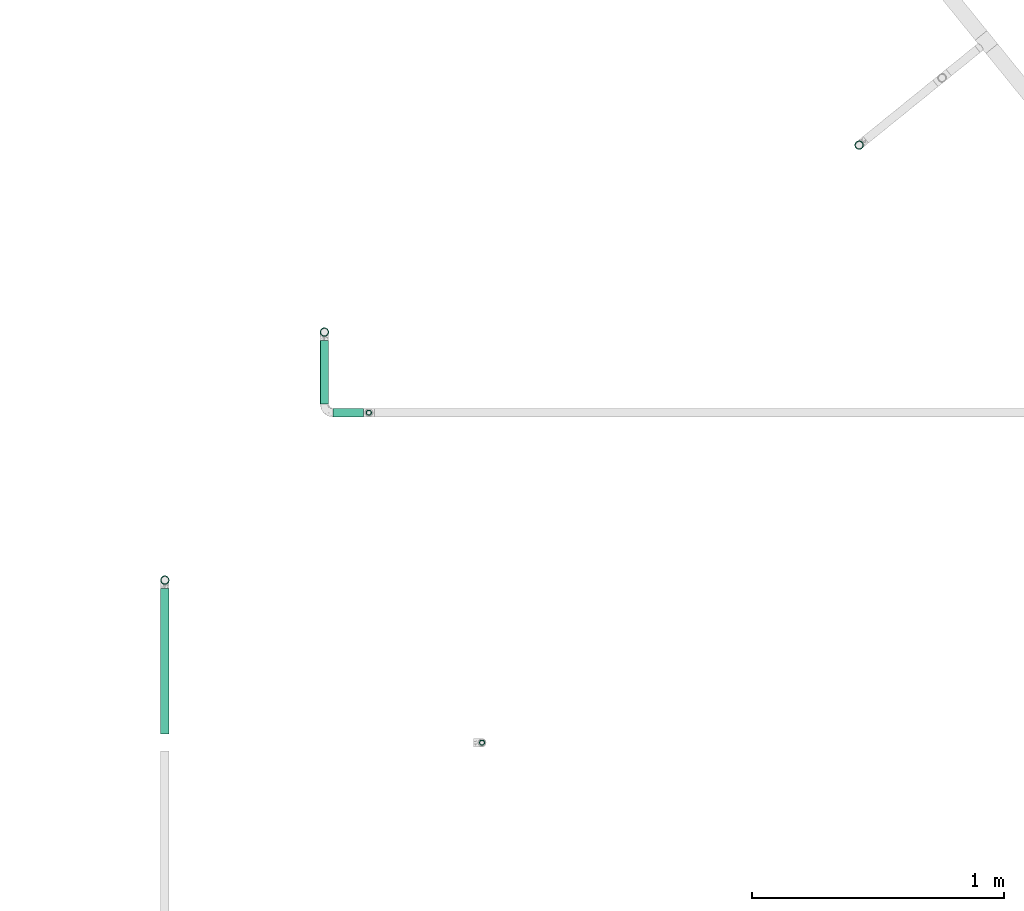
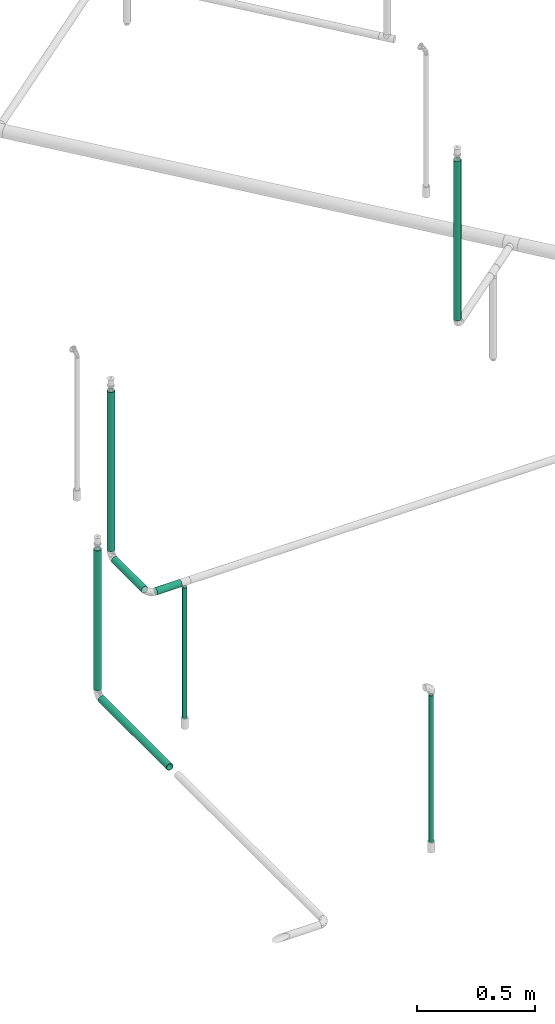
# One storey, part 14 of 94: 8 flow segments.
"""IFC2X3 building model written with IfcOpenShell, lengths in millimetres."""

from ifc_helpers import new_model, entity, si_unit, converted_unit, derived_unit, direction, frame, origin_with_axes, origin_2d_with_axis, place, context, subcontext, project, spatial, hollow_circle, extrude, source, transform, mapped, type_object, element, save


model = new_model("IFC2X3")

# Units and contexts
model_context = context("Model", 3, precision=0.01, world=frame((0.0, 4.29681676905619e-09, 0.0)), true_north=direction((4.01073788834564e-13, 1.0)))
plan_context = context("Plan", 3, precision=0.01, world=frame((0.0, 4.29681676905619e-09, 0.0)), true_north=direction((4.01073788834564e-13, 1.0)))
body_context = subcontext(model_context, "Body", "Model", "MODEL_VIEW")
ifc_project = project(units=[converted_unit("PLANEANGLEUNIT", "DEGREE", entity("IfcPositiveLengthMeasure", 0.0174532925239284), si_unit("PLANEANGLEUNIT", "RADIAN"), dimensions=[0, 0, 0, 0, 0, 0, 0]), si_unit("AREAUNIT", "SQUARE_METRE"), si_unit("LENGTHUNIT", "METRE", prefix="MILLI"), si_unit("MASSUNIT", "GRAM", prefix="KILO"), si_unit("POWERUNIT", "WATT"), si_unit("PRESSUREUNIT", "PASCAL", prefix="KILO"), si_unit("FORCEUNIT", "NEWTON", prefix="KILO"), si_unit("ELECTRICVOLTAGEUNIT", "VOLT"), si_unit("ELECTRICCURRENTUNIT", "AMPERE"), si_unit("THERMODYNAMICTEMPERATUREUNIT", "DEGREE_CELSIUS"), si_unit("TIMEUNIT", "SECOND"), si_unit("VOLUMEUNIT", "CUBIC_METRE"), derived_unit("LINEARVELOCITYUNIT", [(si_unit("LENGTHUNIT", "METRE"), 1), (si_unit("TIMEUNIT", "SECOND"), -1)]), derived_unit("VOLUMETRICFLOWRATEUNIT", [(si_unit("VOLUMEUNIT", "CUBIC_METRE"), 1), (si_unit("TIMEUNIT", "SECOND"), -1)]), derived_unit("THERMALTRANSMITTANCEUNIT", [(si_unit("POWERUNIT", "WATT"), 1), (si_unit("THERMODYNAMICTEMPERATUREUNIT", "KELVIN"), -1), (si_unit("AREAUNIT", "SQUARE_METRE"), -1)]), derived_unit("SOUNDPRESSUREUNIT", [(si_unit("PRESSUREUNIT", "PASCAL"), 1)])], contexts=[model_context, plan_context])

# Site, building, storey
site_placement = place(None, frame((0.0, -4.29681676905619e-09, 0.0), z_axis=(0.0, 0.0, 1.0), x_axis=(1.0, 0.0, 0.0)))
site = spatial("IfcSite", under=ifc_project, at=site_placement, CompositionType="ELEMENT")
building_placement = place(site_placement, frame((0.0, 4.29681676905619e-09, 0.0), z_axis=(0.0, 0.0, 1.0), x_axis=(1.0, 0.0, 0.0)))
building = spatial("IfcBuilding", under=site, at=building_placement, Name="mc-building", CompositionType="ELEMENT")
storey_placement = place(building_placement, frame((0.0, 0.0, 210900.0), z_axis=(0.0, 0.0, 1.0), x_axis=(1.0, 0.0, 0.0)))
storey = spatial("IfcBuildingStorey", under=building, at=storey_placement, Name="Nivå F", CompositionType="ELEMENT", Elevation=210900.0)

# Flow segments
pipe_segment_type = type_object("IfcPipeSegmentType", Name="Stålrør normaltykke", PredefinedType="RIGIDSEGMENT")
shared_shape_1 = source(origin_with_axes(), body_context, "Body", "SweptSolid", [
    extrude(hollow_circle(Radius=16.9, WallThickness=2.0, at=origin_2d_with_axis()), frame((0.0, 0.0, 0.0), z_axis=(1.0, 0.0, 0.0), x_axis=(0.0, 1.0, 0.0)), (0.0, 0.0, 1.0), 577.7),
])
flow_segment_1_placement = place(storey_placement, frame((723741.0277, 439234.5, 3600.0), z_axis=(0.0, 0.0, 1.0), x_axis=(0.0, 1.0, 0.0)))
element("IfcFlowSegment", 1, at=flow_segment_1_placement, inside=storey, type_object=pipe_segment_type, Name="Stålrør normaltykke", context=body_context, shape_type="MappedRepresentation", body=[
    mapped(shared_shape_1, transform((0.0, 0.0, 0.0), scale=1.0)),
])
shared_shape_2 = source(origin_with_axes(), body_context, "Body", "SweptSolid", [
    extrude(hollow_circle(Radius=16.9, WallThickness=2.0, at=origin_2d_with_axis()), frame((0.0, 0.0, 0.0), z_axis=(1.0, 0.0, 0.0), x_axis=(0.0, 1.0, 0.0)), (0.0, 0.0, 1.0), 121.1),
])
flow_segment_2_placement = place(storey_placement, frame((724529.48364, 440510.4939, 3500.0), z_axis=(0.0, 0.0, 1.0), x_axis=(-1.0, 0.0, 0.0)))
element("IfcFlowSegment", 2, at=flow_segment_2_placement, inside=storey, type_object=pipe_segment_type, Name="Stålrør normaltykke", context=body_context, shape_type="MappedRepresentation", body=[
    mapped(shared_shape_2, transform((0.0, 0.0, 0.0), scale=1.0)),
])
shared_shape_3 = source(origin_with_axes(), body_context, "Body", "SweptSolid", [
    extrude(hollow_circle(Radius=16.9, WallThickness=2.0, at=origin_2d_with_axis()), frame((0.0, 0.0, 0.0), z_axis=(1.0, 0.0, 0.0), x_axis=(0.0, 1.0, 0.0)), (0.0, 0.0, 1.0), 252.4),
])
flow_segment_3_placement = place(storey_placement, frame((724374.5926, 440544.2939, 3500.0), z_axis=(0.0, 0.0, 1.0), x_axis=(0.0, 1.0, 0.0)))
element("IfcFlowSegment", 3, at=flow_segment_3_placement, inside=storey, type_object=pipe_segment_type, Name="Stålrør normaltykke", context=body_context, shape_type="MappedRepresentation", body=[
    mapped(shared_shape_3, transform((0.0, 0.0, 0.0), scale=1.0)),
])
shared_shape_4 = source(origin_with_axes(), body_context, "Body", "SweptSolid", [
    extrude(hollow_circle(Radius=16.9, WallThickness=2.0, at=origin_2d_with_axis()), frame((0.0, 0.0, 0.0), z_axis=(1.0, 0.0, 0.0), x_axis=(0.0, 1.0, 0.0)), (0.0, 0.0, 1.0), 723.8),
])
flow_segment_4_placement = place(storey_placement, frame((723741.0277, 439846.03424, 3633.79999999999), z_axis=(-1.0, 0.0, 0.0), x_axis=(0.0, 0.0, 1.0)))
element("IfcFlowSegment", 4, at=flow_segment_4_placement, inside=storey, type_object=pipe_segment_type, Name="Stålrør normaltykke", context=body_context, shape_type="MappedRepresentation", body=[
    mapped(shared_shape_4, transform((0.0, 0.0, 0.0), scale=1.0)),
])
shared_shape_5 = source(origin_with_axes(), body_context, "Body", "SweptSolid", [
    extrude(hollow_circle(Radius=16.9, WallThickness=2.0, at=origin_2d_with_axis()), frame((0.0, 0.0, 0.0), z_axis=(1.0, 0.0, 0.0), x_axis=(0.0, 1.0, 0.0)), (0.0, 0.0, 1.0), 823.8),
])
for number, where, z_axis, x_axis in (
    (5, (724374.5926, 440830.4939, 3533.79999999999), (-1.0, 0.0, 0.0), (0.0, 0.0, 1.0)),
    (6, (726497.00357, 441572.61755, 3533.79999999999), (-0.000893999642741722, -0.99999960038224, 0.0), (0.0, 0.0, 1.0)),
):
    element("IfcFlowSegment", number, at=place(storey_placement, frame(where, z_axis=z_axis, x_axis=x_axis)), inside=storey, type_object=pipe_segment_type, Name="Stålrør normaltykke", context=body_context, shape_type="MappedRepresentation", body=[
        mapped(shared_shape_5, transform((0.0, 0.0, 0.0), scale=1.0, scale2=1.0, scale3=1.0, uniform=False)),
    ])
shared_shape_6 = source(origin_with_axes(), body_context, "Body", "SweptSolid", [
    extrude(hollow_circle(Radius=10.7, WallThickness=2.0, at=origin_2d_with_axis()), frame((0.0, 0.0, 0.0), z_axis=(1.0, 0.0, 0.0), x_axis=(0.0, 1.0, 0.0)), (0.0, 0.0, 1.0), 759.3),
])
flow_segment_5_placement = place(storey_placement, frame((725000.0, 439200.7, 2794.49074000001), z_axis=(0.0, 1.0, 0.0), x_axis=(0.0, 0.0, 1.0)))
element("IfcFlowSegment", 7, at=flow_segment_5_placement, inside=storey, type_object=pipe_segment_type, Name="Stålrør normaltykke", context=body_context, shape_type="MappedRepresentation", body=[
    mapped(shared_shape_6, transform((0.0, 0.0, 0.0), scale=1.0)),
])
shared_shape_7 = source(origin_with_axes(), body_context, "Body", "SweptSolid", [
    extrude(hollow_circle(Radius=10.7, WallThickness=2.0, at=origin_2d_with_axis()), frame((0.0, 0.0, 0.0), z_axis=(1.0, 0.0, 0.0), x_axis=(0.0, 1.0, 0.0)), (0.0, 0.0, 1.0), 677.7),
])
flow_segment_6_placement = place(storey_placement, frame((724550.88364, 440510.4939, 2796.95199999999), z_axis=(0.0, 1.0, 0.0), x_axis=(0.0, 0.0, 1.0)))
element("IfcFlowSegment", 8, at=flow_segment_6_placement, inside=storey, type_object=pipe_segment_type, Name="Stålrør normaltykke", context=body_context, shape_type="MappedRepresentation", body=[
    mapped(shared_shape_7, transform((0.0, 0.0, 0.0), scale=1.0)),
])

save(model, "model.ifc")
